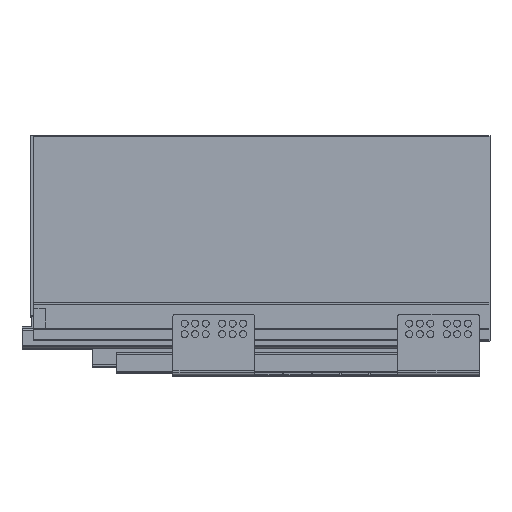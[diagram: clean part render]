
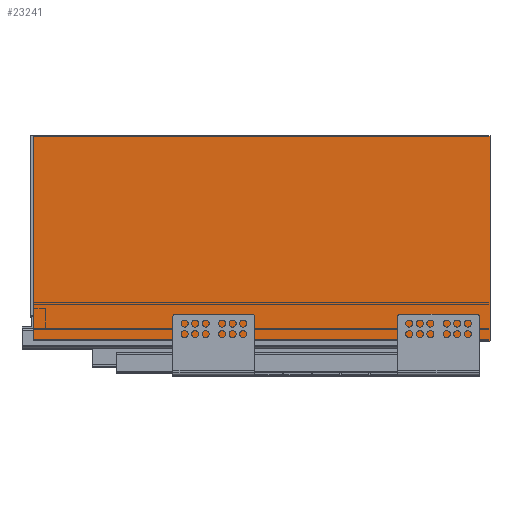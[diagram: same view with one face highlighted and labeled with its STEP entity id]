
A CAD part, top view. The second image highlights one B-rep face of the part: STEP entity #23241.
In plain terms, the highlighted planar face has unit normal (0, 0, 1).
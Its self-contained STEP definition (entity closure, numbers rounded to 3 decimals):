
#564=PLANE('',#24622);
#1515=FACE_OUTER_BOUND('',#2794,.T.);
#2794=EDGE_LOOP('',(#16241,#16242,#16243,#16244));
#4501=LINE('',#33515,#7144);
#4503=LINE('',#33519,#7146);
#4504=LINE('',#33521,#7147);
#4505=LINE('',#33522,#7148);
#7144=VECTOR('',#26971,10.);
#7146=VECTOR('',#26975,10.);
#7147=VECTOR('',#26976,10.);
#7148=VECTOR('',#26977,10.);
#10373=VERTEX_POINT('',#33512);
#10374=VERTEX_POINT('',#33514);
#10375=VERTEX_POINT('',#33518);
#10376=VERTEX_POINT('',#33520);
#12698=EDGE_CURVE('',#10373,#10374,#4501,.T.);
#12700=EDGE_CURVE('',#10373,#10375,#4503,.T.);
#12701=EDGE_CURVE('',#10375,#10376,#4504,.T.);
#12702=EDGE_CURVE('',#10376,#10374,#4505,.T.);
#16241=ORIENTED_EDGE('',*,*,#12700,.T.);
#16242=ORIENTED_EDGE('',*,*,#12701,.T.);
#16243=ORIENTED_EDGE('',*,*,#12702,.T.);
#16244=ORIENTED_EDGE('',*,*,#12698,.F.);
#23241=ADVANCED_FACE('',(#1515),#564,.F.);
#24622=AXIS2_PLACEMENT_3D('',#33517,#26973,#26974);
#26971=DIRECTION('',(1.,0.,0.));
#26973=DIRECTION('center_axis',(0.,0.,-1.));
#26974=DIRECTION('ref_axis',(0.,1.,0.));
#26975=DIRECTION('',(0.,-1.,0.));
#26976=DIRECTION('',(1.,0.,0.));
#26977=DIRECTION('',(0.,1.,0.));
#33512=CARTESIAN_POINT('',(0.,175.,535.));
#33514=CARTESIAN_POINT('',(390.,175.,535.));
#33515=CARTESIAN_POINT('',(0.,175.,535.));
#33517=CARTESIAN_POINT('Origin',(0.,0.,535.));
#33518=CARTESIAN_POINT('',(0.,0.,535.));
#33519=CARTESIAN_POINT('',(0.,175.,535.));
#33520=CARTESIAN_POINT('',(390.,0.,535.));
#33521=CARTESIAN_POINT('',(0.,0.,535.));
#33522=CARTESIAN_POINT('',(390.,175.,535.));
